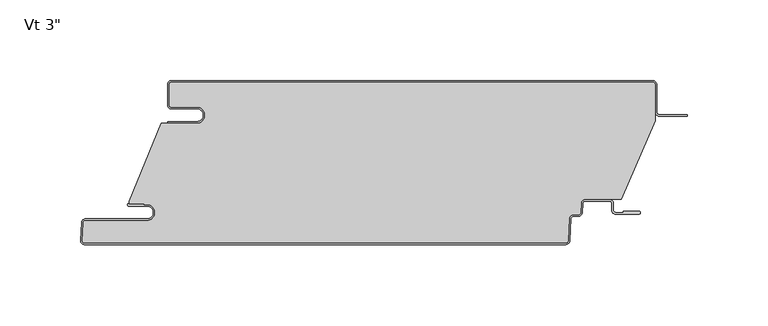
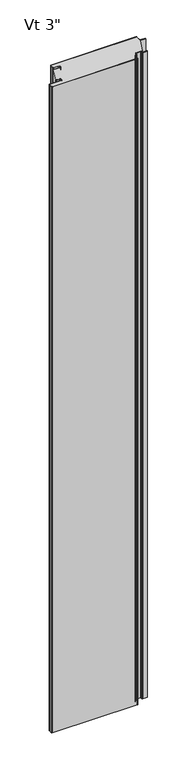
"""IFC4 building model written with IfcOpenShell, lengths in millimetres: plate geometry."""

from ifc_helpers import new_model, si_unit, point, frame, frame_2d, origin, origin_with_axes, place, context, project, spatial, polyline, circle_curve, ellipse_curve, trimmed, segment, composite_curve, outline, extrude, source, transform, mapped, element, save
from ifc_brep_helpers import plane_surface, cylinder_surface, revolved_surface, extruded_surface, advanced_brep


def plate_f41fd1ef(model_context):
    return source(origin(), model_context, "Body", "SolidModel", [
        extrude(outline(composite_curve([segment(polyline([(-133.35625, -16.4625), (-149.23125, -16.4625)]), True, "CONTINUOUS"), segment(trimmed(circle_curve(frame_2d((-149.23125, -15.08125)), 1.38125), [point((-149.23125, -16.4625))], [point((-150.6125, -15.08125))], False, "CARTESIAN"), True, "CONTINUOUS"), segment(polyline([(-150.6125, -15.08125), (-150.6125, -2.38125)]), True, "CONTINUOUS"), segment(trimmed(circle_curve(frame_2d((-149.23125, -2.38125)), 1.38125), [point((-150.6125, -2.38125))], [point((-149.23125, -1.0))], False, "CARTESIAN"), True, "CONTINUOUS"), segment(polyline([(-149.23125, -1.0), (149.21875, -1.0)]), True, "CONTINUOUS"), segment(trimmed(circle_curve(frame_2d((149.21875, -2.38125)), 1.38125), [point((149.21875, -1.0))], [point((150.6, -2.38125))], False, "CARTESIAN"), True, "CONTINUOUS"), segment(polyline([(150.6, -2.38125), (150.6, -24.9057308), (129.7830434, -73.6125), (107.3415783, -73.6125)]), True, "CONTINUOUS"), segment(trimmed(circle_curve(frame_2d((107.3415783, -76.2)), 2.5875), [point((107.3415783, -73.6125))], [point((104.7576244, -76.0645807))], True, "CARTESIAN"), True, "CONTINUOUS"), segment(polyline([(104.7576244, -76.0645807), (104.4555481, -81.828539)]), True, "CONTINUOUS"), segment(trimmed(circle_curve(frame_2d((103.0761911, -81.75625)), 1.38125), [point((104.4555481, -81.828539))], [point((103.0761911, -83.1375))], False, "CARTESIAN"), True, "CONTINUOUS"), segment(polyline([(103.0761911, -83.1375), (100.0323847, -83.1375)]), True, "CONTINUOUS"), segment(trimmed(circle_curve(frame_2d((100.0323847, -85.725)), 2.5875), [point((100.0323847, -83.1375))], [point((97.4484307, -85.5895807))], True, "CARTESIAN"), True, "CONTINUOUS"), segment(polyline([(97.4484307, -85.5895807), (96.7303677, -99.291039)]), True, "CONTINUOUS"), segment(trimmed(circle_curve(frame_2d((95.3510107, -99.21875)), 1.38125), [point((96.7303677, -99.291039))], [point((95.3510107, -100.6))], False, "CARTESIAN"), True, "CONTINUOUS"), segment(polyline([(95.3510107, -100.6), (-203.0924535, -100.6)]), True, "CONTINUOUS"), segment(trimmed(circle_curve(frame_2d((-203.0924535, -99.21875)), 1.38125), [point((-203.0924535, -100.6))], [point((-204.4718106, -99.146461))], False, "CARTESIAN"), True, "CONTINUOUS"), segment(polyline([(-204.4718106, -99.146461), (-203.8894291, -88.033961)]), True, "CONTINUOUS"), segment(trimmed(circle_curve(frame_2d((-202.5100721, -88.10625)), 1.38125), [point((-203.8894291, -88.033961))], [point((-202.5100721, -86.725))], False, "CARTESIAN"), True, "CONTINUOUS"), segment(polyline([(-202.5100721, -86.725), (-164.3267674, -86.725)]), True, "CONTINUOUS"), segment(trimmed(circle_curve(frame_2d((-164.3267674, -81.75625)), 4.96875), [point((-164.3267674, -86.725))], [point((-164.3267674, -76.7875))], True, "CARTESIAN"), True, "CONTINUOUS"), segment(polyline([(-164.3267674, -76.7875), (-165.9142674, -76.99375), (-165.9142674, -76.2), (-175.425, -76.2), (-175.425, -74.6157227), (-155.5385922, -26.4), (-133.35625, -26.4)]), True, "CONTINUOUS"), segment(trimmed(circle_curve(frame_2d((-133.35625, -21.43125)), 4.96875), [point((-133.35625, -26.4))], [point((-133.35625, -16.4625))], True, "CARTESIAN"), True, "CONTINUOUS")], self_intersect=False)), origin_with_axes(), (0.0, 0.0, 1.0), 2400.0),
        extrude(outline(composite_curve([segment(polyline([(-151.6125, -25.4), (-133.35625, -25.4)]), True, "CONTINUOUS"), segment(trimmed(circle_curve(frame_2d((-133.35625, -21.43125)), 3.96875), [point((-133.35625, -25.4))], [point((-133.35625, -17.4625))], True, "CARTESIAN"), True, "CONTINUOUS"), segment(polyline([(-133.35625, -17.4625), (-149.23125, -17.4625)]), True, "CONTINUOUS"), segment(trimmed(circle_curve(frame_2d((-149.23125, -15.08125)), 2.38125), [point((-149.23125, -17.4625))], [point((-151.6125, -15.08125))], False, "CARTESIAN"), True, "CONTINUOUS"), segment(polyline([(-151.6125, -15.08125), (-151.6125, -2.38125)]), True, "CONTINUOUS"), segment(trimmed(circle_curve(frame_2d((-149.23125, -2.38125)), 2.38125), [point((-151.6125, -2.38125))], [point((-149.23125, 0.0))], False, "CARTESIAN"), True, "CONTINUOUS"), segment(polyline([(-149.23125, 0.0), (149.21875, 0.0)]), True, "CONTINUOUS"), segment(trimmed(circle_curve(frame_2d((149.21875, -2.38125)), 2.38125), [point((149.21875, 0.0))], [point((151.6, -2.38125))], False, "CARTESIAN"), True, "CONTINUOUS"), segment(polyline([(151.6, -2.38125), (151.6, -19.446875)]), True, "CONTINUOUS"), segment(trimmed(circle_curve(frame_2d((153.1875, -19.446875)), 1.5875), [point((151.6, -19.446875))], [point((153.1875, -21.034375))], True, "CARTESIAN"), True, "CONTINUOUS"), segment(polyline([(153.1875, -21.034375), (170.65, -21.034375), (170.65, -22.034375), (153.1875, -22.034375)]), True, "CONTINUOUS"), segment(trimmed(circle_curve(frame_2d((153.1875, -19.446875)), 2.5875), [point((153.1875, -22.034375))], [point((150.6, -19.446875))], False, "CARTESIAN"), True, "CONTINUOUS"), segment(polyline([(150.6, -19.446875), (150.6, -2.38125)]), True, "CONTINUOUS"), segment(trimmed(circle_curve(frame_2d((149.21875, -2.38125)), 1.38125), [point((150.6, -2.38125))], [point((149.21875, -1.0))], True, "CARTESIAN"), True, "CONTINUOUS"), segment(polyline([(149.21875, -1.0), (-149.23125, -1.0)]), True, "CONTINUOUS"), segment(trimmed(circle_curve(frame_2d((-149.23125, -2.38125)), 1.38125), [point((-149.23125, -1.0))], [point((-150.6125, -2.38125))], True, "CARTESIAN"), True, "CONTINUOUS"), segment(polyline([(-150.6125, -2.38125), (-150.6125, -15.08125)]), True, "CONTINUOUS"), segment(trimmed(circle_curve(frame_2d((-149.23125, -15.08125)), 1.38125), [point((-150.6125, -15.08125))], [point((-149.23125, -16.4625))], True, "CARTESIAN"), True, "CONTINUOUS"), segment(polyline([(-149.23125, -16.4625), (-133.35625, -16.4625)]), True, "CONTINUOUS"), segment(trimmed(circle_curve(frame_2d((-133.35625, -21.43125)), 4.96875), [point((-133.35625, -16.4625))], [point((-133.35625, -26.4))], False, "CARTESIAN"), True, "CONTINUOUS"), segment(polyline([(-133.35625, -26.4), (-151.6125, -26.4), (-151.6125, -25.4)]), True, "CONTINUOUS")], self_intersect=False)), origin_with_axes(), (0.0, 0.0, 1.0), 2400.0),
        advanced_brep(
        [(-175.6377049, -76.2, 2400.0), (-175.6377049, -77.7875, 2400.0), (-164.3267674, -77.7875, 2400.0), (-164.3267674, -85.725, 2400.0), (-202.5100721, -85.725, 2400.0), (-204.8880586, -87.981625, 2400.0), (-205.4704401, -99.094125, 2400.0), (-203.0924535, -101.6, 2400.0), (95.3510107, -101.6, 2400.0), (97.7289973, -99.343375, 2400.0), (98.4470603, -85.6419167, 2400.0), (100.0323847, -84.1375, 2400.0), (103.0761911, -84.1375, 2400.0), (105.4541776, -81.880875, 2400.0), (105.7562539, -76.1169167, 2400.0), (107.3415783, -74.6125, 2400.0), (122.2169826, -74.6125, 2400.0), (123.8044826, -76.2, 2400.0), (123.8044826, -80.3671875, 2400.0), (126.1857326, -82.7484375, 2400.0), (140.6773532, -82.7484375, 2400.0), (140.6773532, -80.9546875, 2400.0), (130.9482326, -80.9546875, 2400.0), (130.9482326, -81.7484375, 2400.0), (126.1857326, -81.7484375, 2400.0), (124.8044826, -80.3671875, 2400.0), (124.8044826, -76.2, 2400.0), (122.2169826, -73.6125, 2400.0), (107.3415783, -73.6125, 2400.0), (104.7576244, -76.0645807, 2400.0), (104.4555481, -81.828539, 2400.0), (103.0761911, -83.1375, 2400.0), (100.0323847, -83.1375, 2400.0), (97.4484307, -85.5895807, 2400.0), (96.7303677, -99.291039, 2400.0), (95.3510107, -100.6, 2400.0), (-203.0924535, -100.6, 2400.0), (-204.4718106, -99.146461, 2400.0), (-203.8894291, -88.033961, 2400.0), (-202.5100721, -86.725, 2400.0), (-164.3267674, -86.725, 2400.0), (-164.3267674, -76.7875, 2400.0), (-165.9142674, -76.99375, 2400.0), (-165.9142674, -76.2, 2400.0), (-175.6377049, -76.2, 0.0), (-165.9142674, -76.2, 0.0), (-165.9142674, -76.99375, 0.0), (-164.3267674, -76.7875, 0.0), (-164.3267674, -86.725, 0.0), (-202.5100721, -86.725, 0.0), (-203.8894291, -88.033961, 0.0), (-204.4718106, -99.146461, 0.0), (-203.0924535, -100.6, 0.0), (95.3510107, -100.6, 0.0), (96.7303677, -99.291039, 0.0), (97.4484307, -85.5895807, 0.0), (100.0323847, -83.1375, 0.0), (103.0761911, -83.1375, 0.0), (104.4555481, -81.828539, 0.0), (104.7576244, -76.0645807, 0.0), (107.3415783, -73.6125, 0.0), (122.2169826, -73.6125, 0.0), (124.8044826, -76.2, 0.0), (124.8044826, -80.3671875, 0.0), (126.1857326, -81.7484375, 0.0), (130.9482326, -81.7484375, 0.0), (130.9482326, -80.9546875, 0.0), (140.6773532, -80.9546875, 0.0), (140.6773532, -82.7484375, 0.0), (126.1857326, -82.7484375, 0.0), (123.8044826, -80.3671875, 0.0), (123.8044826, -76.2, 0.0), (122.2169826, -74.6125, 0.0), (107.3415783, -74.6125, 0.0), (105.7562539, -76.1169167, 0.0), (105.4541776, -81.880875, 0.0), (103.0761911, -84.1375, 0.0), (100.0323847, -84.1375, 0.0), (98.4470603, -85.6419167, 0.0), (97.7289973, -99.343375, 0.0), (95.3510107, -101.6, 0.0), (-203.0924535, -101.6, 0.0), (-205.4704401, -99.094125, 0.0), (-204.8880586, -87.981625, 0.0), (-202.5100721, -85.725, 0.0), (-164.3267674, -85.725, 0.0), (-164.3267674, -77.7875, 0.0), (-175.6377049, -77.7875, 0.0)],
        [
            (0, 1, circle_curve(frame((-175.6377049, -76.99375, 2400.0), z_axis=(0.0, 0.0, 1.0), x_axis=(-1.0, 0.0, 0.0)), 0.79375)),
            (1, 2),
            (2, 3, circle_curve(frame((-164.3267674, -81.75625, 2400.0), z_axis=(0.0, 0.0, -1.0), x_axis=(-1.0, 0.0, 0.0)), 3.96875)),
            (3, 4),
            (4, 5, circle_curve(frame((-202.5100721, -88.10625, 2400.0), z_axis=(0.0, 0.0, 1.0), x_axis=(-1.0, 0.0, 0.0)), 2.38125)),
            (5, 6),
            (6, 7, circle_curve(frame((-203.0924535, -99.21875, 2400.0), z_axis=(0.0, 0.0, 1.0), x_axis=(-1.0, 0.0, 0.0)), 2.38125)),
            (7, 8),
            (8, 9, circle_curve(frame((95.3510107, -99.21875, 2400.0), z_axis=(0.0, 0.0, 1.0), x_axis=(-1.0, 0.0, 0.0)), 2.38125)),
            (9, 10),
            (10, 11, circle_curve(frame((100.0323847, -85.725, 2400.0), z_axis=(0.0, 0.0, -1.0), x_axis=(-1.0, 0.0, 0.0)), 1.5875)),
            (11, 12),
            (12, 13, circle_curve(frame((103.0761911, -81.75625, 2400.0), z_axis=(0.0, 0.0, 1.0), x_axis=(-1.0, 0.0, 0.0)), 2.38125)),
            (13, 14),
            (14, 15, circle_curve(frame((107.3415783, -76.2, 2400.0), z_axis=(0.0, 0.0, -1.0), x_axis=(-1.0, 0.0, 0.0)), 1.5875)),
            (15, 16),
            (16, 17, circle_curve(frame((122.2169826, -76.2, 2400.0), z_axis=(0.0, 0.0, -1.0), x_axis=(-1.0, 0.0, 0.0)), 1.5875)),
            (17, 18),
            (18, 19, circle_curve(frame((126.1857326, -80.3671875, 2400.0), z_axis=(0.0, 0.0, 1.0), x_axis=(-1.0, 0.0, 0.0)), 2.38125)),
            (19, 20),
            (20, 21, ellipse_curve(frame((140.6773532, -81.8515625, 2400.0), z_axis=(0.0, 0.0, 1.0), x_axis=(0.0, 1.0, 0.0)), 0.896875, 0.7852275)),
            (21, 22),
            (22, 23),
            (23, 24),
            (24, 25, circle_curve(frame((126.1857326, -80.3671875, 2400.0), z_axis=(0.0, 0.0, -1.0), x_axis=(-1.0, 0.0, 0.0)), 1.38125)),
            (25, 26),
            (26, 27, circle_curve(frame((122.2169826, -76.2, 2400.0), z_axis=(0.0, 0.0, 1.0), x_axis=(-1.0, 0.0, 0.0)), 2.5875)),
            (27, 28),
            (28, 29, circle_curve(frame((107.3415783, -76.2, 2400.0), z_axis=(0.0, 0.0, 1.0), x_axis=(-1.0, 0.0, 0.0)), 2.5875)),
            (29, 30),
            (30, 31, circle_curve(frame((103.0761911, -81.75625, 2400.0), z_axis=(0.0, 0.0, -1.0), x_axis=(-1.0, 0.0, 0.0)), 1.38125)),
            (31, 32),
            (32, 33, circle_curve(frame((100.0323847, -85.725, 2400.0), z_axis=(0.0, 0.0, 1.0), x_axis=(-1.0, 0.0, 0.0)), 2.5875)),
            (33, 34),
            (34, 35, circle_curve(frame((95.3510107, -99.21875, 2400.0), z_axis=(0.0, 0.0, -1.0), x_axis=(-1.0, 0.0, 0.0)), 1.38125)),
            (35, 36),
            (36, 37, circle_curve(frame((-203.0924535, -99.21875, 2400.0), z_axis=(0.0, 0.0, -1.0), x_axis=(-1.0, 0.0, 0.0)), 1.38125)),
            (37, 38),
            (38, 39, circle_curve(frame((-202.5100721, -88.10625, 2400.0), z_axis=(0.0, 0.0, -1.0), x_axis=(-1.0, 0.0, 0.0)), 1.38125)),
            (39, 40),
            (40, 41, circle_curve(frame((-164.3267674, -81.75625, 2400.0), z_axis=(0.0, 0.0, 1.0), x_axis=(-1.0, 0.0, 0.0)), 4.96875)),
            (41, 42),
            (42, 43),
            (43, 0),
            (44, 45),
            (45, 46),
            (46, 47),
            (47, 48, circle_curve(frame((-164.3267674, -81.75625, 0.0), z_axis=(0.0, 0.0, -1.0), x_axis=(-1.0, 0.0, 0.0)), 4.96875)),
            (48, 49),
            (49, 50, circle_curve(frame((-202.5100721, -88.10625, 0.0), z_axis=(0.0, 0.0, 1.0), x_axis=(-1.0, 0.0, 0.0)), 1.38125)),
            (50, 51),
            (51, 52, circle_curve(frame((-203.0924535, -99.21875, 0.0), z_axis=(0.0, 0.0, 1.0), x_axis=(-1.0, 0.0, 0.0)), 1.38125)),
            (52, 53),
            (53, 54, circle_curve(frame((95.3510107, -99.21875, 0.0), z_axis=(0.0, 0.0, 1.0), x_axis=(-1.0, 0.0, 0.0)), 1.38125)),
            (54, 55),
            (55, 56, circle_curve(frame((100.0323847, -85.725, 0.0), z_axis=(0.0, 0.0, -1.0), x_axis=(-1.0, 0.0, 0.0)), 2.5875)),
            (56, 57),
            (57, 58, circle_curve(frame((103.0761911, -81.75625, 0.0), z_axis=(0.0, 0.0, 1.0), x_axis=(-1.0, 0.0, 0.0)), 1.38125)),
            (58, 59),
            (59, 60, circle_curve(frame((107.3415783, -76.2, 0.0), z_axis=(0.0, 0.0, -1.0), x_axis=(-1.0, 0.0, 0.0)), 2.5875)),
            (60, 61),
            (61, 62, circle_curve(frame((122.2169826, -76.2, 0.0), z_axis=(0.0, 0.0, -1.0), x_axis=(-1.0, 0.0, 0.0)), 2.5875)),
            (62, 63),
            (63, 64, circle_curve(frame((126.1857326, -80.3671875, 0.0), z_axis=(0.0, 0.0, 1.0), x_axis=(-1.0, 0.0, 0.0)), 1.38125)),
            (64, 65),
            (65, 66),
            (66, 67),
            (67, 68, ellipse_curve(frame((140.6773532, -81.8515625, 0.0), z_axis=(0.0, 0.0, -1.0), x_axis=(0.0, 1.0, 0.0)), 0.896875, 0.7852275)),
            (68, 69),
            (69, 70, circle_curve(frame((126.1857326, -80.3671875, 0.0), z_axis=(0.0, 0.0, -1.0), x_axis=(-1.0, 0.0, 0.0)), 2.38125)),
            (70, 71),
            (71, 72, circle_curve(frame((122.2169826, -76.2, 0.0), z_axis=(0.0, 0.0, 1.0), x_axis=(-1.0, 0.0, 0.0)), 1.5875)),
            (72, 73),
            (73, 74, circle_curve(frame((107.3415783, -76.2, 0.0), z_axis=(0.0, 0.0, 1.0), x_axis=(-1.0, 0.0, 0.0)), 1.5875)),
            (74, 75),
            (75, 76, circle_curve(frame((103.0761911, -81.75625, 0.0), z_axis=(0.0, 0.0, -1.0), x_axis=(-1.0, 0.0, 0.0)), 2.38125)),
            (76, 77),
            (77, 78, circle_curve(frame((100.0323847, -85.725, 0.0), z_axis=(0.0, 0.0, 1.0), x_axis=(-1.0, 0.0, 0.0)), 1.5875)),
            (78, 79),
            (79, 80, circle_curve(frame((95.3510107, -99.21875, 0.0), z_axis=(0.0, 0.0, -1.0), x_axis=(-1.0, 0.0, 0.0)), 2.38125)),
            (80, 81),
            (81, 82, circle_curve(frame((-203.0924535, -99.21875, 0.0), z_axis=(0.0, 0.0, -1.0), x_axis=(-1.0, 0.0, 0.0)), 2.38125)),
            (82, 83),
            (83, 84, circle_curve(frame((-202.5100721, -88.10625, 0.0), z_axis=(0.0, 0.0, -1.0), x_axis=(-1.0, 0.0, 0.0)), 2.38125)),
            (84, 85),
            (85, 86, circle_curve(frame((-164.3267674, -81.75625, 0.0), z_axis=(0.0, 0.0, 1.0), x_axis=(-1.0, 0.0, 0.0)), 3.96875)),
            (86, 87),
            (87, 44, circle_curve(frame((-175.6377049, -76.99375, 0.0), z_axis=(0.0, 0.0, -1.0), x_axis=(-1.0, 0.0, 0.0)), 0.79375)),
            (43, 45),
            (44, 0),
            (87, 1),
            (86, 2),
            (85, 3),
            (84, 4),
            (83, 5),
            (82, 6),
            (81, 7),
            (80, 8),
            (79, 9),
            (78, 10),
            (77, 11),
            (76, 12),
            (75, 13),
            (74, 14),
            (73, 15),
            (38, 50),
            (49, 39),
            (37, 51),
            (36, 52),
            (35, 53),
            (34, 54),
            (33, 55),
            (32, 56),
            (31, 57),
            (30, 58),
            (29, 59),
            (28, 60),
            (23, 65),
            (64, 24),
            (63, 25),
            (62, 26),
            (72, 16),
            (71, 17),
            (70, 18),
            (69, 19),
            (68, 20),
            (27, 61),
            (48, 40),
            (47, 41),
            (42, 46),
            (22, 66),
            (21, 67),
        ],
        [
            plane_surface(frame((-0.00625, -101.6, 2400.0), z_axis=(0.0, 0.0, 1.0), x_axis=(0.0, -1.0, 0.0))),
            plane_surface(frame((-0.00625, -101.6, 0.0), z_axis=(0.0, 0.0, -1.0), x_axis=(0.0, -1.0, 0.0))),
            plane_surface(frame((-175.6377049, -76.2, 2400.0), z_axis=(0.0, 1.0, 0.0), x_axis=(0.0, 0.0, -1.0))),
            cylinder_surface(frame((-175.6377049, -76.99375, 2400.0), z_axis=(0.0, 0.0, 1.0), x_axis=(-1.0, 0.0, 0.0)), 0.79375),
            plane_surface(frame((-164.3267674, -77.7875, 2400.0), z_axis=(0.0, -1.0, 0.0), x_axis=(0.0, 0.0, -1.0))),
            revolved_surface(polyline([(-168.2955174, -81.75625, 0.0), (-168.2955174, -81.75625, 2400.0)]), (-164.3267674, -81.75625, 2400.0), (0.0, 0.0, -1.0)),
            plane_surface(frame((-202.5100721, -85.725, 2400.0), z_axis=(0.0, 1.0, 0.0), x_axis=(0.0, 0.0, -1.0))),
            cylinder_surface(frame((-202.5100721, -88.10625, 2400.0), z_axis=(0.0, 0.0, 1.0), x_axis=(-1.0, 0.0, 0.0)), 2.38125),
            plane_surface(frame((-205.4704401, -99.094125, 2400.0), z_axis=(-0.9986295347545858, 0.052335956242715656, 0.0), x_axis=(0.0, 0.0, -1.0))),
            cylinder_surface(frame((-203.0924535, -99.21875, 2400.0), z_axis=(0.0, 0.0, 1.0), x_axis=(-1.0, 0.0, 0.0)), 2.38125),
            plane_surface(frame((95.3510107, -101.6, 2400.0), z_axis=(0.0, -1.0, 0.0), x_axis=(0.0, 0.0, -1.0))),
            cylinder_surface(frame((95.3510107, -99.21875, 2400.0), z_axis=(0.0, 0.0, 1.0), x_axis=(-1.0, 0.0, 0.0)), 2.38125),
            plane_surface(frame((98.4470603, -85.6419167, 2400.0), z_axis=(0.9986295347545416, -0.05233595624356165, 0.0), x_axis=(0.0, 0.0, -1.0))),
            revolved_surface(polyline([(98.44488469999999, -85.725, 0.0), (98.44488469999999, -85.725, 2400.0)]), (100.0323847, -85.725, 2400.0), (0.0, 0.0, -1.0)),
            plane_surface(frame((103.0761911, -84.1375, 2400.0), z_axis=(0.0, -1.0, 0.0), x_axis=(0.0, 0.0, -1.0))),
            cylinder_surface(frame((103.0761911, -81.75625, 2400.0), z_axis=(0.0, 0.0, 1.0), x_axis=(-1.0, 0.0, 0.0)), 2.38125),
            plane_surface(frame((105.7562539, -76.1169167, 2400.0), z_axis=(0.9986295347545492, -0.052335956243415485, 0.0), x_axis=(0.0, 0.0, -1.0))),
            revolved_surface(polyline([(105.75407829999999, -76.2, 0.0), (105.75407829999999, -76.2, 2400.0)]), (107.3415783, -76.2, 2400.0), (0.0, 0.0, -1.0)),
            revolved_surface(polyline([(-203.8913221, -88.10625, 0.0), (-203.8913221, -88.10625, 2400.0)]), (-202.5100721, -88.10625, 2400.0), (0.0, 0.0, -1.0)),
            plane_surface(frame((-203.8894291, -88.033961, 2400.0), z_axis=(0.9986295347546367, -0.05233595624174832, 0.0), x_axis=(0.0, 0.0, -1.0))),
            revolved_surface(polyline([(-204.4737035, -99.21875, 0.0), (-204.4737035, -99.21875, 2400.0)]), (-203.0924535, -99.21875, 2400.0), (0.0, 0.0, -1.0)),
            plane_surface(frame((-203.0924535, -100.6, 2400.0), z_axis=(0.0, 1.0, 0.0), x_axis=(0.0, 0.0, -1.0))),
            revolved_surface(polyline([(93.96976070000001, -99.21875, 0.0), (93.96976070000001, -99.21875, 2400.0)]), (95.3510107, -99.21875, 2400.0), (0.0, 0.0, -1.0)),
            plane_surface(frame((96.7303677, -99.291039, 2400.0), z_axis=(-0.9986295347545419, 0.05233595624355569, 0.0), x_axis=(0.0, 0.0, -1.0))),
            cylinder_surface(frame((100.0323847, -85.725, 2400.0), z_axis=(0.0, 0.0, 1.0), x_axis=(-1.0, 0.0, 0.0)), 2.5875),
            plane_surface(frame((100.0323847, -83.1375, 2400.0), z_axis=(0.0, 1.0, 0.0), x_axis=(0.0, 0.0, -1.0))),
            revolved_surface(polyline([(101.69494110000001, -81.75625, 0.0), (101.69494110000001, -81.75625, 2400.0)]), (103.0761911, -81.75625, 2400.0), (0.0, 0.0, -1.0)),
            plane_surface(frame((104.4555481, -81.828539, 2400.0), z_axis=(-0.9986295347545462, 0.05233595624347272, 0.0), x_axis=(0.0, 0.0, -1.0))),
            cylinder_surface(frame((107.3415783, -76.2, 2400.0), z_axis=(0.0, 0.0, 1.0), x_axis=(-1.0, 0.0, 0.0)), 2.5875),
            plane_surface(frame((126.1857326, -81.7484375, 2400.0), z_axis=(0.0, 1.0, 0.0), x_axis=(0.0, 0.0, -1.0))),
            revolved_surface(polyline([(124.8044826, -80.3671875, 0.0), (124.8044826, -80.3671875, 2400.0)]), (126.1857326, -80.3671875, 2400.0), (0.0, 0.0, -1.0)),
            plane_surface(frame((124.8044826, -76.2, 2400.0), z_axis=(1.0, 0.0, 0.0), x_axis=(0.0, 0.0, -1.0))),
            plane_surface(frame((122.2169826, -74.6125, 2400.0), z_axis=(0.0, -1.0, 0.0), x_axis=(0.0, 0.0, -1.0))),
            revolved_surface(polyline([(120.62948259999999, -76.2, 0.0), (120.62948259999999, -76.2, 2400.0)]), (122.2169826, -76.2, 2400.0), (0.0, 0.0, -1.0)),
            plane_surface(frame((123.8044826, -80.3671875, 2400.0), z_axis=(-1.0, 0.0, 0.0), x_axis=(0.0, 0.0, -1.0))),
            cylinder_surface(frame((126.1857326, -80.3671875, 2400.0), z_axis=(0.0, 0.0, 1.0), x_axis=(-1.0, 0.0, 0.0)), 2.38125),
            plane_surface(frame((140.6773532, -82.7484375, 2400.0), z_axis=(0.0, -1.0, 0.0), x_axis=(0.0, 0.0, -1.0))),
            plane_surface(frame((107.3415783, -73.6125, 2400.0), z_axis=(0.0, 1.0, 0.0), x_axis=(0.0, 0.0, -1.0))),
            cylinder_surface(frame((122.2169826, -76.2, 2400.0), z_axis=(0.0, 0.0, 1.0), x_axis=(-1.0, 0.0, 0.0)), 2.5875),
            plane_surface(frame((-164.3267674, -86.725, 2400.0), z_axis=(0.0, -1.0, 0.0), x_axis=(0.0, 0.0, -1.0))),
            cylinder_surface(frame((-164.3267674, -81.75625, 2400.0), z_axis=(0.0, 0.0, 1.0), x_axis=(-1.0, 0.0, 0.0)), 4.96875),
            plane_surface(frame((-165.9142674, -76.2, 2400.0), z_axis=(1.0, 0.0, 0.0), x_axis=(0.0, 0.0, -1.0))),
            plane_surface(frame((-165.9142674, -76.99375, 2400.0), z_axis=(-0.12883844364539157, 0.9916655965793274, 0.0), x_axis=(0.0, 0.0, -1.0))),
            plane_surface(frame((130.9482326, -81.7484375, 2400.0), z_axis=(-1.0, 0.0, 0.0), x_axis=(0.0, 0.0, -1.0))),
            plane_surface(frame((130.9482326, -80.9546875, 2400.0), z_axis=(0.0, 1.0, 0.0), x_axis=(0.0, 0.0, -1.0))),
            extruded_surface(trimmed(ellipse_curve(frame((140.6773532, -81.8515625, 2400.0), z_axis=(0.0, 0.0, -1.0), x_axis=(0.0, 1.0, 0.0)), 0.896875, 0.7852275), [point((140.6773532, -80.9546875, 2400.0))], [point((140.6773532, -82.7484375, 2400.0))], True, "CARTESIAN"), (0.0, 0.0, -2400.0), 2400.0),
        ],
        [
            (0, [[1, 2, 3, 4, 5, 6, 7, 8, 9, 10, 11, 12, 13, 14, 15, 16, 17, 18, 19, 20, 21, 22, 23, 24, 25, 26, 27, 28, 29, 30, 31, 32, 33, 34, 35, 36, 37, 38, 39, 40, 41, 42, 43, 44]]),
            (1, [[45, 46, 47, 48, 49, 50, 51, 52, 53, 54, 55, 56, 57, 58, 59, 60, 61, 62, 63, 64, 65, 66, 67, 68, 69, 70, 71, 72, 73, 74, 75, 76, 77, 78, 79, 80, 81, 82, 83, 84, 85, 86, 87, 88]]),
            (2, [[89, -45, 90, -44]]),
            (3, [[-90, -88, 91, -1]]),
            (4, [[-91, -87, 92, -2]]),
            (5, [[-92, -86, 93, -3]]),
            (6, [[-93, -85, 94, -4]]),
            (7, [[-94, -84, 95, -5]]),
            (8, [[-95, -83, 96, -6]]),
            (9, [[-96, -82, 97, -7]]),
            (10, [[-97, -81, 98, -8]]),
            (11, [[-98, -80, 99, -9]]),
            (12, [[-99, -79, 100, -10]]),
            (13, [[-100, -78, 101, -11]]),
            (14, [[-101, -77, 102, -12]]),
            (15, [[-102, -76, 103, -13]]),
            (16, [[-103, -75, 104, -14]]),
            (17, [[-104, -74, 105, -15]]),
            (18, [[106, -50, 107, -39]]),
            (19, [[108, -51, -106, -38]]),
            (20, [[109, -52, -108, -37]]),
            (21, [[110, -53, -109, -36]]),
            (22, [[111, -54, -110, -35]]),
            (23, [[112, -55, -111, -34]]),
            (24, [[113, -56, -112, -33]]),
            (25, [[114, -57, -113, -32]]),
            (26, [[115, -58, -114, -31]]),
            (27, [[116, -59, -115, -30]]),
            (28, [[117, -60, -116, -29]]),
            (29, [[118, -65, 119, -24]]),
            (30, [[-119, -64, 120, -25]]),
            (31, [[-120, -63, 121, -26]]),
            (32, [[-105, -73, 122, -16]]),
            (33, [[-122, -72, 123, -17]]),
            (34, [[-123, -71, 124, -18]]),
            (35, [[-124, -70, 125, -19]]),
            (36, [[-125, -69, 126, -20]]),
            (37, [[127, -61, -117, -28]]),
            (38, [[-121, -62, -127, -27]]),
            (39, [[-107, -49, 128, -40]]),
            (40, [[-128, -48, 129, -41]]),
            (41, [[130, -46, -89, -43]]),
            (42, [[-129, -47, -130, -42]]),
            (43, [[131, -66, -118, -23]]),
            (44, [[132, -67, -131, -22]]),
            (45, [[-126, -68, -132, -21]]),
        ],
    ),
    ])


if __name__ == "__main__":
    model = new_model("IFC4")
    model_context = context("Model", 3, world=origin())
    ifc_project = project(units=[si_unit("LENGTHUNIT", "METRE", prefix="MILLI")], contexts=[model_context])
    site = spatial("IfcSite", under=ifc_project)
    building = spatial("IfcBuilding", under=site)
    placement = place(None, origin())
    plate_shape = plate_f41fd1ef(model_context)
    element("IfcPlate", 1, ObjectType="KIP-12-DWTR-R19-CP-Vt-F : Vt 3\"", at=placement, inside=building, context=model_context, shape_type="MappedRepresentation", body=[
        mapped(plate_shape, transform((0.0, 0.0, 0.0), x_axis=(1.0, 0.0, 0.0), y_axis=(0.0, 1.0, 0.0), z_axis=(0.0, 0.0, 1.0))),
    ])
    save(model, "model.ifc")
